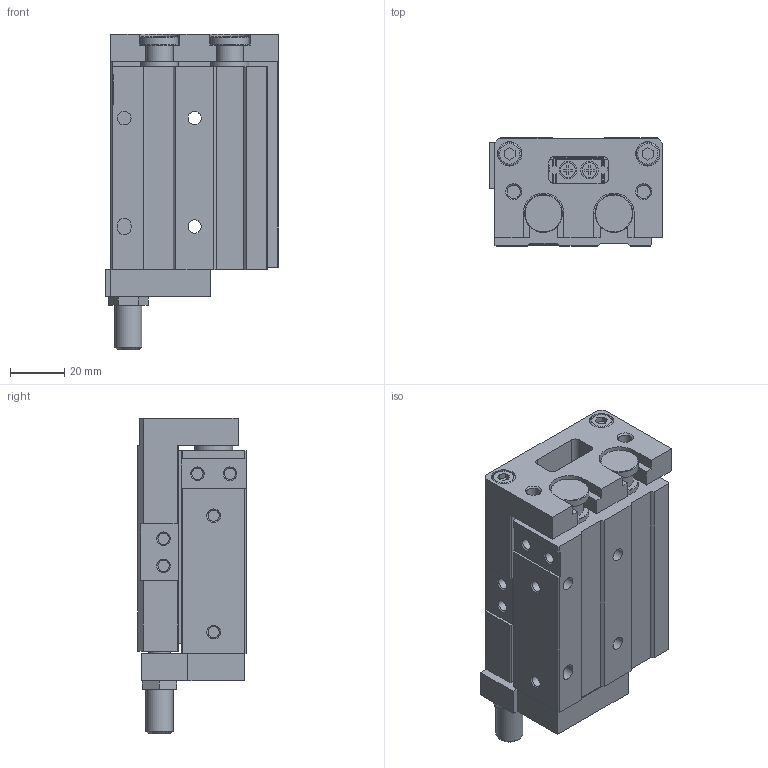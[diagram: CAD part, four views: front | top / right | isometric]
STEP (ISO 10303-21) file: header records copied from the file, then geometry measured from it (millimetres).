
FILE_DESCRIPTION( ( 'STEP AP214' ), '1' );
FILE_NAME( 'C:/Users/EMC02301/Desktop/ELS图纸/ELS16X10-S-AF.stp', '2026-08-05T06:03:42', ( 'License CC BY-ND 4.0' ), ( 'CADENAS' ), ' ', 'PARTsolutions', ' ' );
FILE_SCHEMA( ( 'AUTOMOTIVE_DESIGN { 1 0 10303 214 1 1 1 1 }' ) );
Length unit declared in the file: millimetre
Products named in the file (4): ELS16X10-S-AF(0)(); _ELS16X10-S-AF(HX-07)(HX-07-1)(0-body); _ELS16X10-S-AF(0-rod); _FJ-ELS16-(AF)
Assembly tree (3 placements, depth 2):
  ELS16X10-S-AF(0)()
    _ELS16X10-S-AF(HX-07)(HX-07-1)(0-body)
    _ELS16X10-S-AF(0-rod)
    _FJ-ELS16-(AF)
Bounding box: 64 x 40 x 116.5 mm (x, y, z)
Volume: 190856.7 mm3; surface area: 62675.5 mm2
Topology: 3 solids, 3 shells, 473 faces, 1149 edges, 756 vertices
Faces by surface type: plane 359, cylinder 87, cone 25, torus 2
Full cylindrical faces by diameter (mm): 4.134 x14, 4.917 x4, 5 x2, 5.1 x2, 5.5 x8, 6.5 x8, 8 x5, 8.5 x2, 8.6 x4, 9 x6, 10 x1, 10.5 x4, 14 x6, 16 x4, 18 x2
Entity records: 17014 total; most frequent: CARTESIAN_POINT 2261, DIRECTION 2200, ORIENTED_EDGE 2078, EDGE_CURVE 1039, LINE 832, VECTOR 832, VERTEX_POINT 745, AXIS2_PLACEMENT_3D 684
